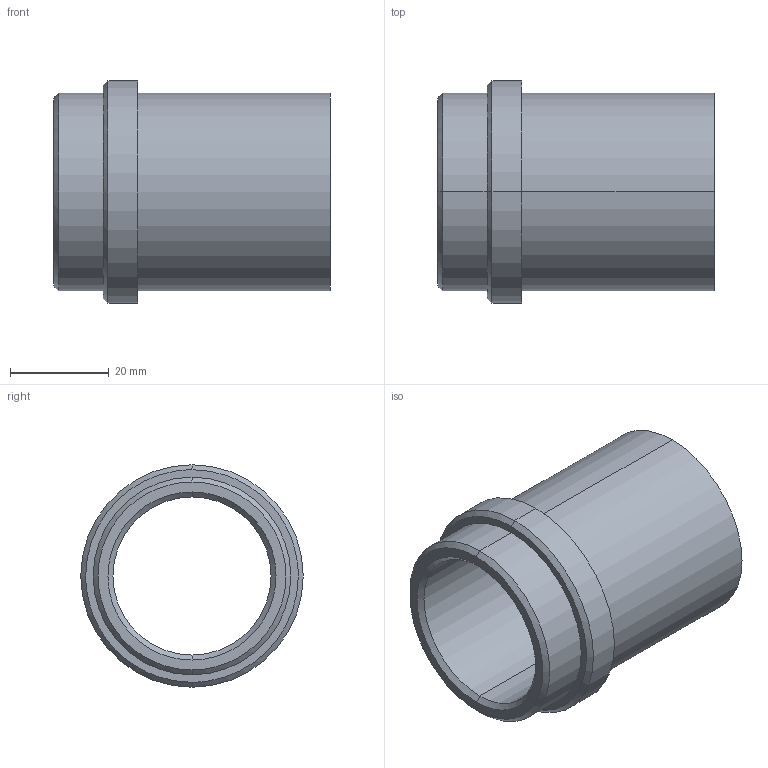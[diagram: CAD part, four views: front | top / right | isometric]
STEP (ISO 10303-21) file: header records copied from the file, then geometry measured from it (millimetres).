
FILE_DESCRIPTION(('CATIA V5 STEP Exchange'),'2;1');
FILE_NAME('C:\Users\Utente\Desktop\IO LAVORO\3D X SITO CF\X SITO\PLASTICA\358\358-32x56.stp','2021-04-09T13:17:04+00:00',('none'),('none'),'CATIA Version 5 Release 20 GA (IN-10)','CATIA V5 STEP AP203','none');
FILE_SCHEMA(('CONFIG_CONTROL_DESIGN'));
Length unit declared in the file: millimetre
Products named in the file (1): 358-32X56
Bounding box: 56 x 45 x 45 mm (x, y, z)
Volume: 27398.9 mm3; surface area: 14048.1 mm2
Topology: 1 solids, 1 shells, 20 faces, 64 edges, 48 vertices
Faces by surface type: cylinder 8, cone 6, plane 4, torus 2
Entity records: 906 total; most frequent: CARTESIAN_POINT 301, ORIENTED_EDGE 128, DIRECTION 92, EDGE_CURVE 64, AXIS2_PLACEMENT_3D 59, VERTEX_POINT 48, CIRCLE 38, EDGE_LOOP 24
